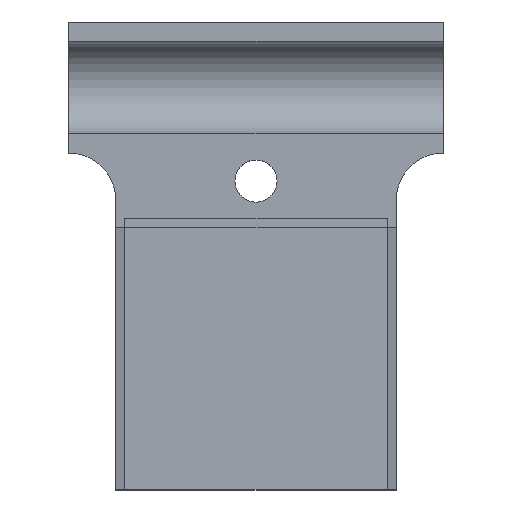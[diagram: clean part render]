
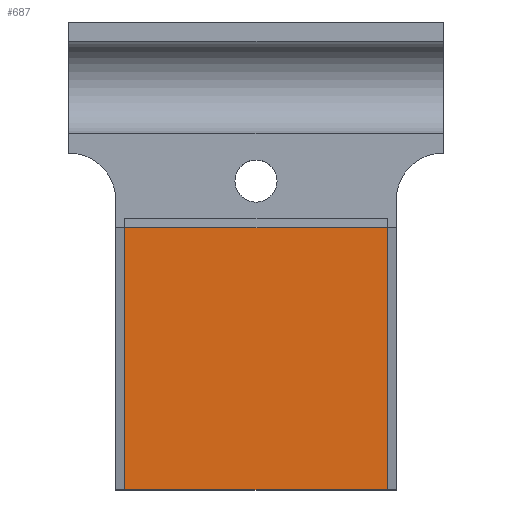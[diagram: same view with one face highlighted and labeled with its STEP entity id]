
A CAD part, top view. The second image highlights one B-rep face of the part: STEP entity #687.
In plain terms, the highlighted planar face has unit normal (0, 0, 1).
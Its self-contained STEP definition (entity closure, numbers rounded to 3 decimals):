
#535=CARTESIAN_POINT('',(-14.,-36.,1.0));
#536=VERTEX_POINT('',#535);
#564=CARTESIAN_POINT('',(-14.,-8.,1.0));
#565=VERTEX_POINT('',#564);
#566=CARTESIAN_POINT('',(-14.,-36.,1.0));
#567=DIRECTION('',(0.0,1.0,0.0));
#568=VECTOR('',#567,28.0);
#569=LINE('',#566,#568);
#570=EDGE_CURVE('',#536,#565,#569,.T.);
#595=CARTESIAN_POINT('',(14.,-36.,1.0));
#596=VERTEX_POINT('',#595);
#603=CARTESIAN_POINT('',(14.,-36.,1.0));
#604=DIRECTION('',(-1.0,0.0,0.0));
#605=VECTOR('',#604,28.0);
#606=LINE('',#603,#605);
#607=EDGE_CURVE('',#596,#536,#606,.T.);
#640=CARTESIAN_POINT('',(14.,-8.,1.0));
#641=VERTEX_POINT('',#640);
#648=CARTESIAN_POINT('',(14.,-8.,1.0));
#649=DIRECTION('',(0.0,-1.0,0.0));
#650=VECTOR('',#649,28.);
#651=LINE('',#648,#650);
#652=EDGE_CURVE('',#641,#596,#651,.T.);
#663=CARTESIAN_POINT('',(-14.,-8.,1.0));
#664=DIRECTION('',(1.0,0.0,0.0));
#665=VECTOR('',#664,28.0);
#666=LINE('',#663,#665);
#667=EDGE_CURVE('',#565,#641,#666,.T.);
#676=CARTESIAN_POINT('',(0.,-22.,1.0));
#677=DIRECTION('',(0.0,0.0,1.0));
#678=DIRECTION('',(1.0,0.0,0.0));
#679=AXIS2_PLACEMENT_3D('',#676,#677,#678);
#680=PLANE('',#679);
#681=ORIENTED_EDGE('',*,*,#607,.F.);
#682=ORIENTED_EDGE('',*,*,#652,.F.);
#683=ORIENTED_EDGE('',*,*,#667,.F.);
#684=ORIENTED_EDGE('',*,*,#570,.F.);
#685=EDGE_LOOP('',(#681,#682,#683,#684));
#686=FACE_OUTER_BOUND('',#685,.T.);
#687=ADVANCED_FACE('',(#686),#680,.T.);
